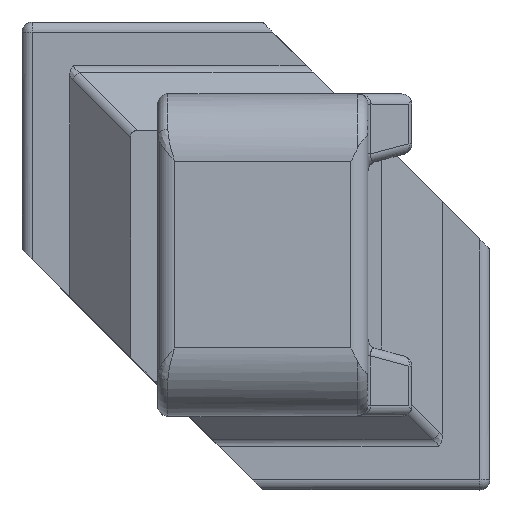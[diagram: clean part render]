
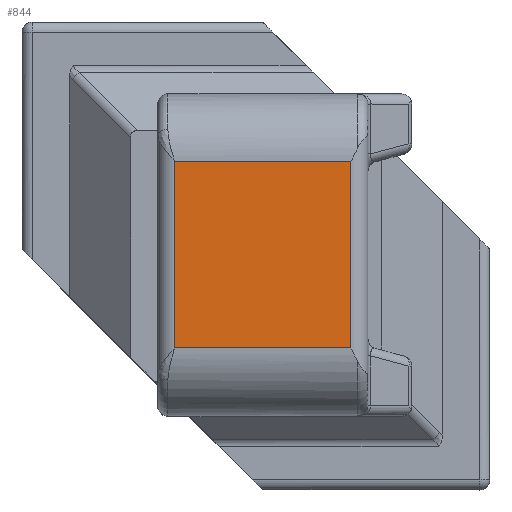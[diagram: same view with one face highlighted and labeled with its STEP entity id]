
A CAD part, top view. The second image highlights one B-rep face of the part: STEP entity #844.
In plain terms, the highlighted planar face has unit normal (0, 0, 1).
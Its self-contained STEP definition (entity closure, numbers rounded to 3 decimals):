
#844=ADVANCED_FACE('',(#1751),#1752,.F.);
#1751=FACE_OUTER_BOUND('',#3637,.T.);
#1752=PLANE('',#3638);
#3637=EDGE_LOOP('',(#6368,#6369,#6370,#6371));
#3638=AXIS2_PLACEMENT_3D('',#6372,#6373,#6374);
#6368=ORIENTED_EDGE('',*,*,#7983,.T.);
#6369=ORIENTED_EDGE('',*,*,#7741,.T.);
#6370=ORIENTED_EDGE('',*,*,#7656,.F.);
#6371=ORIENTED_EDGE('',*,*,#7382,.F.);
#6372=CARTESIAN_POINT('',(-6.9,-2.75,24.));
#6373=DIRECTION('',(0.0,0.0,-1.0));
#6374=DIRECTION('',(1.0,0.0,0.0));
#7382=EDGE_CURVE('',#8676,#8885,#8886,.T.);
#7656=EDGE_CURVE('',#8885,#9305,#9306,.T.);
#7741=EDGE_CURVE('',#9408,#9305,#9409,.T.);
#7983=EDGE_CURVE('',#8676,#9408,#9676,.T.);
#8676=VERTEX_POINT('',#10673);
#8885=VERTEX_POINT('',#11144);
#8886=LINE('',#11145,#11146);
#9305=VERTEX_POINT('',#11824);
#9306=LINE('',#11825,#11826);
#9408=VERTEX_POINT('',#11992);
#9409=LINE('',#11993,#11994);
#9676=LINE('',#12452,#12453);
#10673=CARTESIAN_POINT('',(-2.4,-2.75,24.));
#11144=CARTESIAN_POINT('',(-2.4,2.75,24.));
#11145=CARTESIAN_POINT('',(-2.4,-6.9,24.));
#11146=VECTOR('',#13087,1.0);
#11824=CARTESIAN_POINT('',(2.8,2.75,24.));
#11825=CARTESIAN_POINT('',(-6.9,2.75,24.));
#11826=VECTOR('',#13402,1.0);
#11992=CARTESIAN_POINT('',(2.8,-2.75,24.));
#11993=CARTESIAN_POINT('',(2.8,-6.9,24.));
#11994=VECTOR('',#13469,1.0);
#12452=CARTESIAN_POINT('',(-6.9,-2.75,24.));
#12453=VECTOR('',#13652,1.0);
#13087=DIRECTION('',(0.0,1.0,0.0));
#13402=DIRECTION('',(1.0,0.0,0.0));
#13469=DIRECTION('',(0.0,1.0,0.0));
#13652=DIRECTION('',(1.0,0.0,0.0));
